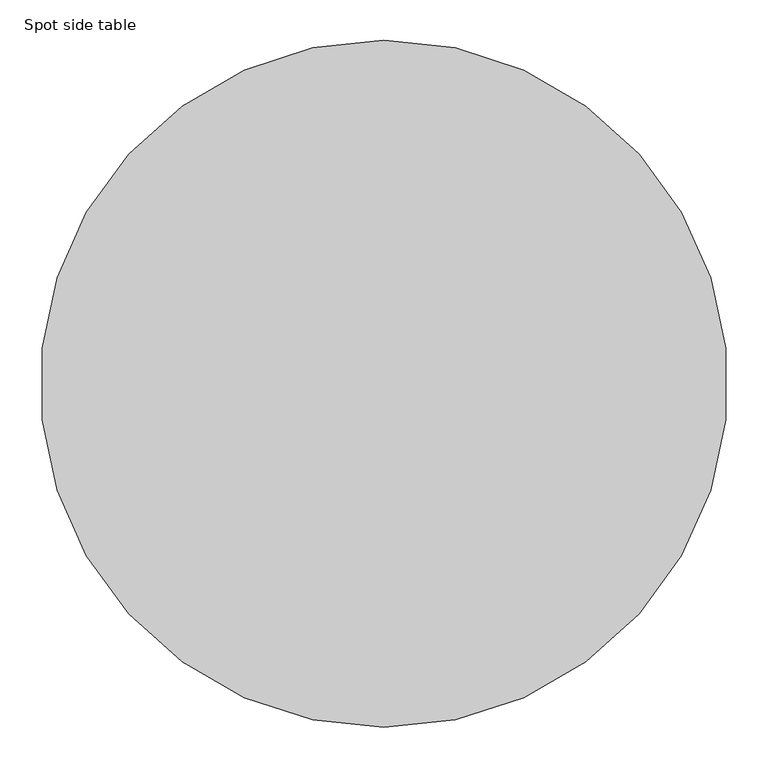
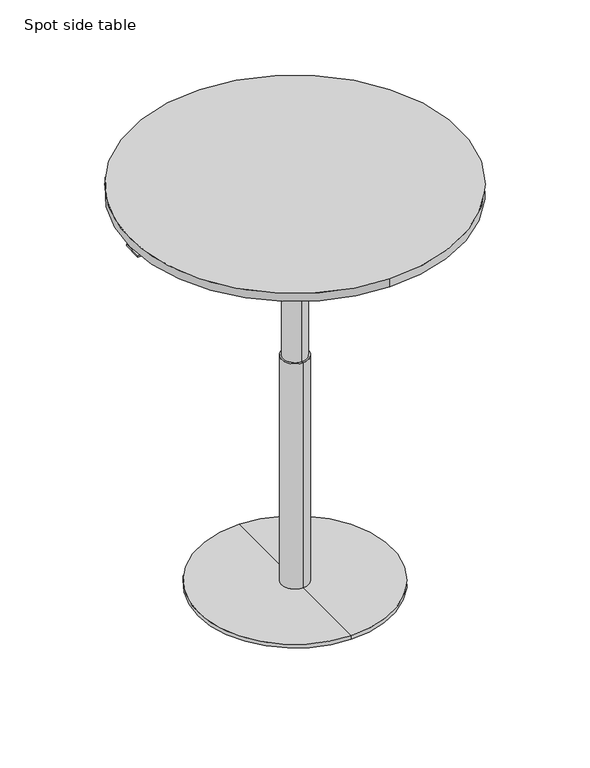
"""IFC4 building model written with IfcOpenShell, lengths in millimetres: furniture geometry, Spot side table : ø85."""

from ifc_helpers import new_model, si_unit, point, frame, origin, origin_2d, place, context, project, spatial, polyline, circle_curve, trimmed, segment, composite_curve, outline, extrude, source, transform, mapped, element, save
from ifc_brep_helpers import plane_surface, cylinder_surface, revolved_surface, advanced_brep


def spot_side_table_94383c94(model_context):
    return source(origin(), model_context, "Body", "SolidModel", [
        advanced_brep(
        [(0.0, 35.0, 12.0), (0.0, -35.0, 12.0), (0.0, -35.0, 625.0), (0.0, 35.0, 625.0), (0.0, 250.0, 12.0), (0.0, -250.0, 12.0), (0.0, 250.0, 2.0), (0.0, -250.0, 2.0), (0.0, 0.0, 2.0), (0.0, 150.0, 1068.0), (0.0, -150.0, 1068.0), (0.0, 0.0, 1068.0), (0.0, 150.0, 1056.7213673), (0.0, -150.0, 1056.7213673), (0.0, 30.0, 1037.0795524), (0.0, -30.0, 1037.0795524), (0.0, 30.0, 625.0), (0.0, -30.0, 625.0)],
        [
            (0, 1, circle_curve(frame((0.0, 0.0, 12.0), z_axis=(0.0, 0.0, 1.0), x_axis=(0.0, -1.0, 0.0)), 35.0)),
            (1, 2),
            (2, 3, circle_curve(frame((0.0, 0.0, 625.0), z_axis=(0.0, 0.0, -1.0), x_axis=(0.0, -1.0, 0.0)), 35.0)),
            (3, 0),
            (1, 0, circle_curve(frame((0.0, 0.0, 12.0), z_axis=(0.0, 0.0, 1.0), x_axis=(0.0, -1.0, 0.0)), 35.0)),
            (3, 2, circle_curve(frame((0.0, 0.0, 625.0), z_axis=(0.0, 0.0, -1.0), x_axis=(0.0, -1.0, 0.0)), 35.0)),
            (4, 5, circle_curve(frame((0.0, 0.0, 12.0), z_axis=(0.0, 0.0, 1.0), x_axis=(0.0, -1.0, 0.0)), 250.0)),
            (5, 1),
            (0, 4),
            (5, 4, circle_curve(frame((0.0, 0.0, 12.0), z_axis=(0.0, 0.0, 1.0), x_axis=(0.0, -1.0, 0.0)), 250.0)),
            (6, 7, circle_curve(frame((0.0, 0.0, 2.0), z_axis=(0.0, 0.0, 1.0), x_axis=(0.0, -1.0, 0.0)), 250.0)),
            (7, 5),
            (4, 6),
            (7, 6, circle_curve(frame((0.0, 0.0, 2.0), z_axis=(0.0, 0.0, 1.0), x_axis=(0.0, -1.0, 0.0)), 250.0)),
            (8, 7),
            (6, 8),
            (9, 10, circle_curve(frame((0.0, 0.0, 1068.0), z_axis=(0.0, 0.0, 1.0), x_axis=(0.0, -1.0, 0.0)), 150.0)),
            (10, 11),
            (11, 9),
            (10, 9, circle_curve(frame((0.0, 0.0, 1068.0), z_axis=(0.0, 0.0, 1.0), x_axis=(0.0, -1.0, 0.0)), 150.0)),
            (12, 13, circle_curve(frame((0.0, 0.0, 1056.7213673), z_axis=(0.0, 0.0, 1.0), x_axis=(0.0, -1.0, 0.0)), 150.0)),
            (13, 10),
            (9, 12),
            (13, 12, circle_curve(frame((0.0, 0.0, 1056.7213673), z_axis=(0.0, 0.0, 1.0), x_axis=(0.0, -1.0, 0.0)), 150.0)),
            (14, 15, circle_curve(frame((0.0, 0.0, 1037.0795524), z_axis=(0.0, 0.0, 1.0), x_axis=(0.0, -1.0, 0.0)), 30.0)),
            (15, 13),
            (12, 14),
            (15, 14, circle_curve(frame((0.0, 0.0, 1037.0795524), z_axis=(0.0, 0.0, 1.0), x_axis=(0.0, -1.0, 0.0)), 30.0)),
            (16, 17, circle_curve(frame((0.0, 0.0, 625.0), z_axis=(0.0, 0.0, 1.0), x_axis=(0.0, -1.0, 0.0)), 30.0)),
            (17, 15),
            (14, 16),
            (17, 16, circle_curve(frame((0.0, 0.0, 625.0), z_axis=(0.0, 0.0, 1.0), x_axis=(0.0, -1.0, 0.0)), 30.0)),
            (2, 17),
            (16, 3),
        ],
        [
            cylinder_surface(frame((0.0, 0.0, 1430.0), z_axis=(0.0, 0.0, -1.0), x_axis=(0.0, -1.0, 0.0)), 35.0),
            plane_surface(frame((0.0, 0.0, 12.0), z_axis=(0.0, 0.0, 1.0), x_axis=(0.0, -1.0, 0.0))),
            cylinder_surface(frame((0.0, 0.0, 1430.0), z_axis=(0.0, 0.0, -1.0), x_axis=(0.0, -1.0, 0.0)), 250.0),
            plane_surface(frame((0.0, 0.0, 2.0), z_axis=(0.0, 0.0, -1.0), x_axis=(0.0, -1.0, 0.0))),
            plane_surface(frame((0.0, 0.0, 1068.0), z_axis=(0.0, 0.0, 1.0), x_axis=(0.0, -1.0, 0.0))),
            cylinder_surface(frame((0.0, 0.0, 1430.0), z_axis=(0.0, 0.0, -1.0), x_axis=(0.0, -1.0, 0.0)), 150.0),
            revolved_surface(polyline([(0.0, -150.0, 1056.7213673), (0.0, -30.0, 1037.0795524)]), (0.0, 0.0, 1430.0), (0.0, 0.0, -1.0)),
            cylinder_surface(frame((0.0, 0.0, 1430.0), z_axis=(0.0, 0.0, -1.0), x_axis=(0.0, -1.0, 0.0)), 30.0),
            plane_surface(frame((0.0, 0.0, 625.0), z_axis=(0.0, 0.0, 1.0), x_axis=(0.0, -1.0, 0.0))),
        ],
        [
            (0, [[1, 2, 3, 4]]),
            (0, [[5, -4, 6, -2]]),
            (1, [[7, 8, -1, 9]]),
            (1, [[10, -9, -5, -8]]),
            (2, [[11, 12, -7, 13]]),
            (2, [[14, -13, -10, -12]]),
            (3, [[15, -11, 16]]),
            (3, [[-16, -14, -15]]),
            (4, [[17, 18, 19]]),
            (4, [[20, -19, -18]]),
            (5, [[21, 22, -17, 23]]),
            (5, [[24, -23, -20, -22]]),
            (6, [[25, 26, -21, 27]]),
            (6, [[28, -27, -24, -26]]),
            (7, [[29, 30, -25, 31]]),
            (7, [[32, -31, -28, -30]]),
            (8, [[-3, 33, -29, 34]]),
            (8, [[-6, -34, -32, -33]]),
        ],
    ),
        extrude(outline(composite_curve([segment(trimmed(circle_curve(origin_2d(), 425.0), [point((0.0, -425.0))], [point((0.0, 425.0))], False, "CARTESIAN"), True, "CONTINUOUS"), segment(trimmed(circle_curve(origin_2d(), 425.0), [point((0.0, 425.0))], [point((0.0, -425.0))], False, "CARTESIAN"), True, "CONTINUOUS")], self_intersect=False)), frame((0.0, 0.0, 1068.0), z_axis=(0.0, 0.0, 1.0), x_axis=(1.0, 0.0, 0.0)), (0.0, 0.0, 1.0), 22.0),
        extrude(outline(polyline([(1058.0, -380.0), (1058.0, -420.0), (1054.0, -420.0), (1054.0, -335.0), (1068.0, -335.0), (1068.0, -380.0), (1058.0, -380.0)])), frame((0.0, -25.0, 0.0), z_axis=(0.0, 1.0, 0.0), x_axis=(0.0, 0.0, 1.0)), (0.0, 0.0, 1.0), 50.0),
    ])


if __name__ == "__main__":
    model = new_model("IFC4")
    model_context = context("Model", 3, world=origin())
    ifc_project = project(units=[si_unit("LENGTHUNIT", "METRE", prefix="MILLI")], contexts=[model_context])
    site = spatial("IfcSite", under=ifc_project)
    building = spatial("IfcBuilding", under=site)
    placement = place(None, origin())
    spot_side_table_shape = spot_side_table_94383c94(model_context)
    element("IfcFurniture", 1, ObjectType="Spot side table : ø85", at=placement, inside=building, context=model_context, shape_type="MappedRepresentation", body=[
        mapped(spot_side_table_shape, transform((0.0, 0.0, 0.0), x_axis=(1.0, 0.0, 0.0), y_axis=(0.0, 1.0, 0.0), z_axis=(0.0, 0.0, 1.0))),
    ])
    save(model, "model.ifc")
